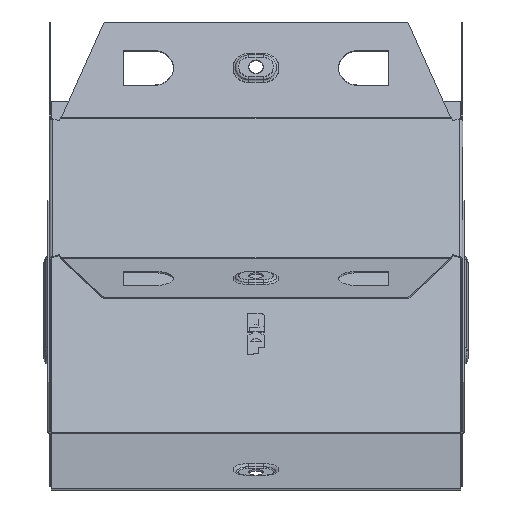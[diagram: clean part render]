
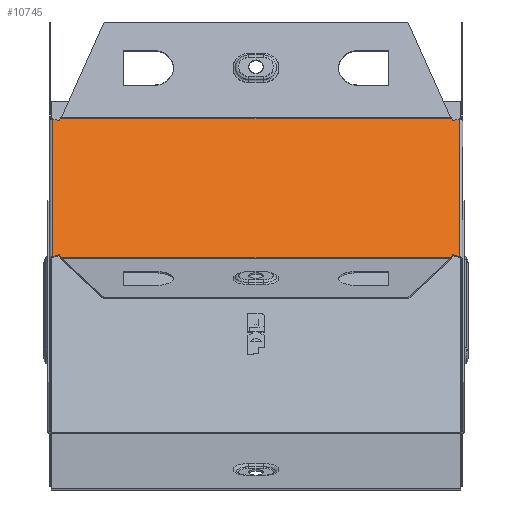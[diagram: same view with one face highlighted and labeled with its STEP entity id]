
A CAD part, front view. The second image highlights one B-rep face of the part: STEP entity #10745.
In plain terms, the highlighted planar face has unit normal (0, -0.707, 0.707).
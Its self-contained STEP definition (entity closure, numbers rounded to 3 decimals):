
#48 = EDGE_CURVE ( 'NONE', #10800, #8838, #3331, .T. ) ;
#197 = DIRECTION ( 'NONE',  ( -1., 0., 0. ) ) ;
#305 = EDGE_CURVE ( 'NONE', #10305, #5015, #1549, .T. ) ;
#313 = VECTOR ( 'NONE', #197, 1000. ) ;
#381 = ORIENTED_EDGE ( 'NONE', *, *, #11231, .F. ) ;
#385 = LINE ( 'NONE', #3221, #11833 ) ;
#401 = FACE_OUTER_BOUND ( 'NONE', #4992, .T. ) ;
#627 = EDGE_CURVE ( 'NONE', #11518, #7008, #385, .T. ) ;
#810 = CARTESIAN_POINT ( 'NONE',  ( 95.217, 3.747, -68.371 ) ) ;
#1549 = LINE ( 'NONE', #7387, #11263 ) ;
#1556 = LINE ( 'NONE', #11394, #10533 ) ;
#1568 = ORIENTED_EDGE ( 'NONE', *, *, #627, .T. ) ;
#1740 = DIRECTION ( 'NONE',  ( 0., -0.707, -0.707 ) ) ;
#1746 = EDGE_CURVE ( 'NONE', #12134, #11334, #5529, .T. ) ;
#1753 = VERTEX_POINT ( 'NONE', #3097 ) ;
#2003 = ORIENTED_EDGE ( 'NONE', *, *, #4895, .T. ) ;
#2050 = DIRECTION ( 'NONE',  ( 0., 0.707, 0.707 ) ) ;
#2170 = CARTESIAN_POINT ( 'NONE',  ( 94.345, 2.258, -69.859 ) ) ;
#2176 = LINE ( 'NONE', #9327, #3960 ) ;
#2179 = EDGE_CURVE ( 'NONE', #5015, #4522, #10406, .T. ) ;
#2414 = VECTOR ( 'NONE', #6177, 1000. ) ;
#2735 = DIRECTION ( 'NONE',  ( -1., 0., 0. ) ) ;
#2779 = LINE ( 'NONE', #3003, #313 ) ;
#2878 = DIRECTION ( 'NONE',  ( 0., 0.707, -0.707 ) ) ;
#3003 = CARTESIAN_POINT ( 'NONE',  ( 98.2, 69.859, -2.258 ) ) ;
#3097 = CARTESIAN_POINT ( 'NONE',  ( 98.2, 2.873, -69.245 ) ) ;
#3221 = CARTESIAN_POINT ( 'NONE',  ( 73.5, 105.445, 33.327 ) ) ;
#3331 = LINE ( 'NONE', #5789, #3781 ) ;
#3348 = VERTEX_POINT ( 'NONE', #8015 ) ;
#3594 = ORIENTED_EDGE ( 'NONE', *, *, #7030, .F. ) ;
#3703 = VECTOR ( 'NONE', #4279, 1000. ) ;
#3745 = EDGE_CURVE ( 'NONE', #4522, #4274, #10600, .T. ) ;
#3781 = VECTOR ( 'NONE', #4015, 1000. ) ;
#3960 = VECTOR ( 'NONE', #2735, 1000. ) ;
#4015 = DIRECTION ( 'NONE',  ( 0.383, 0.653, 0.653 ) ) ;
#4082 = DIRECTION ( 'NONE',  ( 0.924, -0.271, -0.271 ) ) ;
#4106 = ORIENTED_EDGE ( 'NONE', *, *, #305, .T. ) ;
#4274 = VERTEX_POINT ( 'NONE', #8695 ) ;
#4279 = DIRECTION ( 'NONE',  ( -0.924, 0.271, 0.271 ) ) ;
#4405 = CARTESIAN_POINT ( 'NONE',  ( -95.217, 3.747, -68.371 ) ) ;
#4522 = VERTEX_POINT ( 'NONE', #4405 ) ;
#4562 = LINE ( 'NONE', #5095, #3703 ) ;
#4895 = EDGE_CURVE ( 'NONE', #8838, #1753, #8483, .T. ) ;
#4992 = EDGE_LOOP ( 'NONE', ( #10755, #3594, #5624, #2003, #381, #9973, #1568, #7554, #12184, #11910, #4106, #6006 ) ) ;
#5003 = CARTESIAN_POINT ( 'NONE',  ( -73.5, 105.445, 33.327 ) ) ;
#5015 = VERTEX_POINT ( 'NONE', #8993 ) ;
#5076 = CARTESIAN_POINT ( 'NONE',  ( 95.217, 68.371, -3.747 ) ) ;
#5095 = CARTESIAN_POINT ( 'NONE',  ( -100.299, 69.859, -2.258 ) ) ;
#5529 = LINE ( 'NONE', #5003, #7318 ) ;
#5624 = ORIENTED_EDGE ( 'NONE', *, *, #48, .T. ) ;
#5639 = CARTESIAN_POINT ( 'NONE',  ( -95.217, 68.371, -3.747 ) ) ;
#5730 = DIRECTION ( 'NONE',  ( 0.383, -0.653, -0.653 ) ) ;
#5789 = CARTESIAN_POINT ( 'NONE',  ( 73.5, -33.327, -105.445 ) ) ;
#5797 = CARTESIAN_POINT ( 'NONE',  ( 98.2, 70., -2.118 ) ) ;
#5986 = CARTESIAN_POINT ( 'NONE',  ( -100.299, 2.258, -69.859 ) ) ;
#6006 = ORIENTED_EDGE ( 'NONE', *, *, #2179, .T. ) ;
#6014 = VECTOR ( 'NONE', #4082, 1000. ) ;
#6025 = DIRECTION ( 'NONE',  ( -0.383, -0.653, -0.653 ) ) ;
#6177 = DIRECTION ( 'NONE',  ( 0., -0.707, -0.707 ) ) ;
#6665 = CARTESIAN_POINT ( 'NONE',  ( -94.345, 69.859, -2.258 ) ) ;
#6732 = EDGE_CURVE ( 'NONE', #7008, #12134, #2779, .T. ) ;
#7008 = VERTEX_POINT ( 'NONE', #10108 ) ;
#7030 = EDGE_CURVE ( 'NONE', #10800, #4274, #2176, .T. ) ;
#7318 = VECTOR ( 'NONE', #6025, 1000. ) ;
#7387 = CARTESIAN_POINT ( 'NONE',  ( -98.2, 70., -2.118 ) ) ;
#7543 = PLANE ( 'NONE',  #8104 ) ;
#7554 = ORIENTED_EDGE ( 'NONE', *, *, #6732, .T. ) ;
#7755 = DIRECTION ( 'NONE',  ( 0.924, 0.271, 0.271 ) ) ;
#8015 = CARTESIAN_POINT ( 'NONE',  ( 98.2, 69.245, -2.873 ) ) ;
#8104 = AXIS2_PLACEMENT_3D ( 'NONE', #5797, #2878, #2050 ) ;
#8113 = CARTESIAN_POINT ( 'NONE',  ( 98.2, 70., -2.118 ) ) ;
#8483 = LINE ( 'NONE', #10636, #6014 ) ;
#8695 = CARTESIAN_POINT ( 'NONE',  ( -94.345, 2.258, -69.859 ) ) ;
#8838 = VERTEX_POINT ( 'NONE', #810 ) ;
#8950 = EDGE_CURVE ( 'NONE', #11334, #10305, #4562, .T. ) ;
#8993 = CARTESIAN_POINT ( 'NONE',  ( -98.2, 2.873, -69.245 ) ) ;
#9327 = CARTESIAN_POINT ( 'NONE',  ( 98.2, 2.258, -69.859 ) ) ;
#9517 = VECTOR ( 'NONE', #7755, 1000. ) ;
#9973 = ORIENTED_EDGE ( 'NONE', *, *, #10783, .T. ) ;
#10108 = CARTESIAN_POINT ( 'NONE',  ( 94.345, 69.859, -2.258 ) ) ;
#10305 = VERTEX_POINT ( 'NONE', #10527 ) ;
#10383 = DIRECTION ( 'NONE',  ( -0.924, -0.271, -0.271 ) ) ;
#10406 = LINE ( 'NONE', #5986, #9517 ) ;
#10474 = VECTOR ( 'NONE', #5730, 1000. ) ;
#10527 = CARTESIAN_POINT ( 'NONE',  ( -98.2, 69.245, -2.873 ) ) ;
#10533 = VECTOR ( 'NONE', #10383, 1000. ) ;
#10600 = LINE ( 'NONE', #11330, #10474 ) ;
#10636 = CARTESIAN_POINT ( 'NONE',  ( 100.299, 2.258, -69.859 ) ) ;
#10745 = ADVANCED_FACE ( 'NONE', ( #401 ), #7543, .F. ) ;
#10755 = ORIENTED_EDGE ( 'NONE', *, *, #3745, .T. ) ;
#10783 = EDGE_CURVE ( 'NONE', #3348, #11518, #1556, .T. ) ;
#10800 = VERTEX_POINT ( 'NONE', #2170 ) ;
#11231 = EDGE_CURVE ( 'NONE', #3348, #1753, #11841, .T. ) ;
#11263 = VECTOR ( 'NONE', #1740, 1000. ) ;
#11330 = CARTESIAN_POINT ( 'NONE',  ( -73.5, -33.327, -105.445 ) ) ;
#11334 = VERTEX_POINT ( 'NONE', #5639 ) ;
#11394 = CARTESIAN_POINT ( 'NONE',  ( 100.299, 69.859, -2.258 ) ) ;
#11518 = VERTEX_POINT ( 'NONE', #5076 ) ;
#11731 = DIRECTION ( 'NONE',  ( -0.383, 0.653, 0.653 ) ) ;
#11833 = VECTOR ( 'NONE', #11731, 1000. ) ;
#11841 = LINE ( 'NONE', #8113, #2414 ) ;
#11910 = ORIENTED_EDGE ( 'NONE', *, *, #8950, .T. ) ;
#12134 = VERTEX_POINT ( 'NONE', #6665 ) ;
#12184 = ORIENTED_EDGE ( 'NONE', *, *, #1746, .T. ) ;
